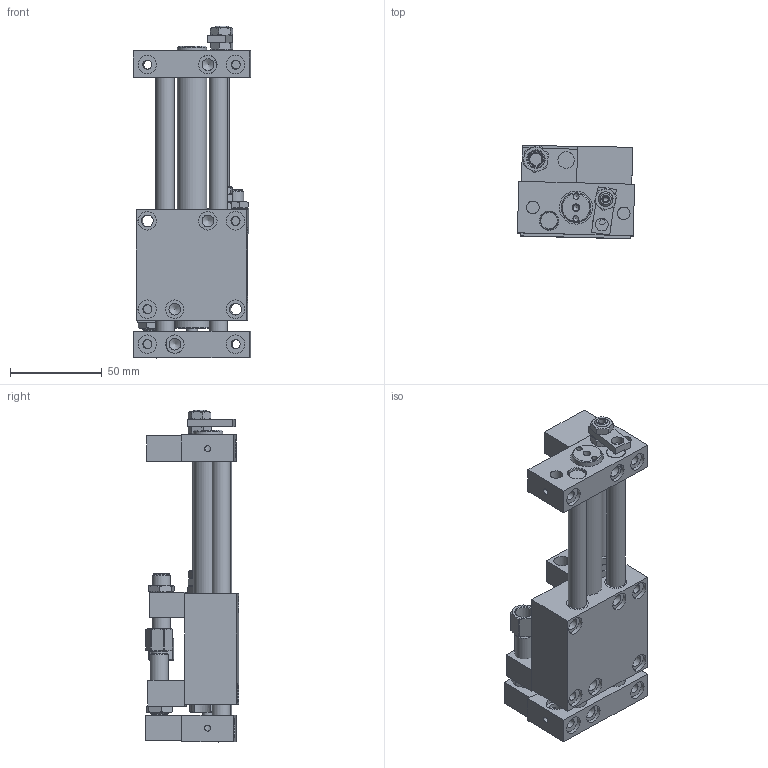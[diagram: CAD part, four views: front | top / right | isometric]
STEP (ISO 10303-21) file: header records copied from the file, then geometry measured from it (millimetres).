
FILE_DESCRIPTION(/* description */ (''),/* implementation_level */ '2;1');
FILE_NAME(/* name */ 'N:\Zeichnungen\Lineareinheiten\Lineareinheit LEM-6(2000)\Lineareinheit LEM-6_3d\Neutrale CAD-Formate\Lineareinheit LEM-6-MS-60-K-0-0-P.stp',/* time_stamp */ '2016-11-23T11:31:47+01:00',/* author */ ('gose'),/* organization */ (''),/* preprocessor_version */ 'ST-DEVELOPER v16.5',/* originating_system */ 'Autodesk Inventor 2017',/* authorisation */ '');
FILE_SCHEMA (('AUTOMOTIVE_DESIGN { 1 0 10303 214 3 1 1 }'));
Length unit declared in the file: millimetre
Products named in the file (3): Lineareinheit LEM-6-MS-60-K-0-0-P; Führungskopf komplett LEM-6-MS-60-K-0-0-P; Führung komplett LEM-6-60 mit Zusatzanschlag Ausle
ger
Assembly tree (2 placements, depth 2):
  Lineareinheit LEM-6-MS-60-K-0-0-P
    Führungskopf komplett LEM-6-MS-60-K-0-0-P
    Führung komplett LEM-6-60 mit Zusatzanschlag Ausle
ger
Bounding box: 63.68 x 50.98 x 180.55 mm (x, y, z)
Surface area: 108336.8 mm2 (no closed solid volume)
Topology: 0 solids, 41 shells, 769 faces, 1689 edges, 1067 vertices
Faces by surface type: plane 320, cylinder 218, cone 210, torus 20, sphere 1
Full cylindrical faces by diameter (mm): 2.7 x3, 3 x1, 3.1 x4, 3.242 x6, 4 x1, 4.134 x7, 4.5 x1, 4.917 x10, 5 x5, 5.3 x4, 6 x7, 6.4 x15, 6.5 x1, 6.6 x2, 6.647 x2, 6.8 x4, 6.917 x10, 7.3 x2, 8 x3, 8.8 x5, 8.917 x8, 9 x3, 9.4 x2, 10 x57, 10.5 x6, 10.8 x2, 11 x2, 11.6 x2, 12 x10, 12.8 x1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
Entity records: 20158 total; most frequent: CARTESIAN_POINT 4342, DIRECTION 3142, ORIENTED_EDGE 2538, AXIS2_PLACEMENT_3D 1384, EDGE_LOOP 1303, EDGE_CURVE 1269, VERTEX_POINT 976, FACE_OUTER_BOUND 769
